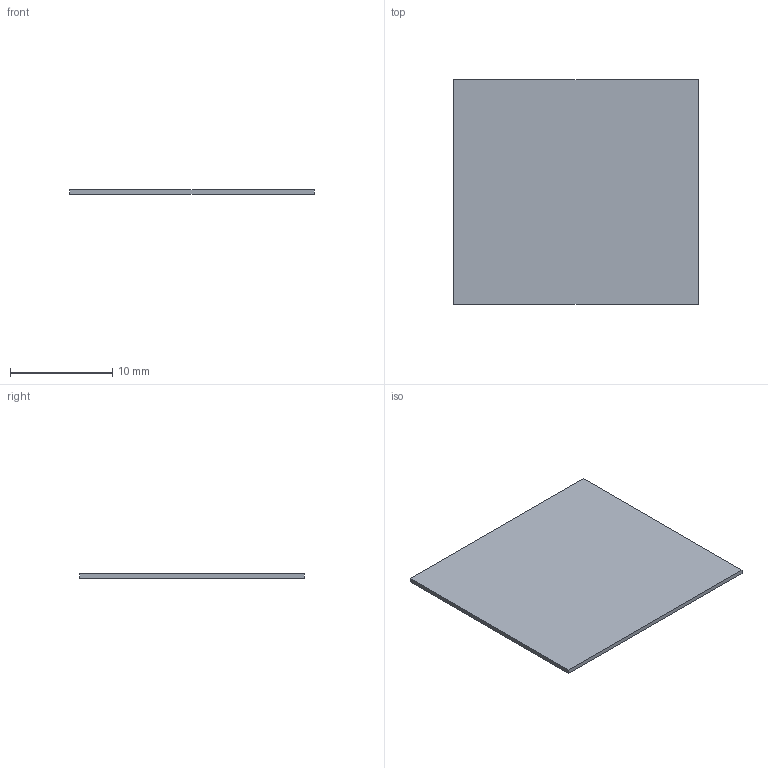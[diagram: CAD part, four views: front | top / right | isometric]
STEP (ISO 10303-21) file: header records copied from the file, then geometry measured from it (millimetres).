
FILE_DESCRIPTION(('Open CASCADE Model'),'2;1');
FILE_NAME('Open CASCADE Shape Model','2026-10-16T00:38:05',('Author'),( 'Open CASCADE'),'Open CASCADE STEP processor 7.5','Open CASCADE 7.5' ,'Unknown');
FILE_SCHEMA(('AUTOMOTIVE_DESIGN { 1 0 10303 214 1 1 1 1 }'));
Length unit declared in the file: millimetre
Products named in the file (3): PCB; Board; Open CASCADE STEP translator 7.5 2.1.1
Assembly tree (2 placements, depth 3):
  PCB
    Board
      Open CASCADE STEP translator 7.5 2.1.1
Bounding box: 24 x 22 x 0.41 mm (x, y, z)
Volume: 217.3 mm3; surface area: 1093.9 mm2
Topology: 1 solids, 1 shells, 6 faces, 12 edges, 8 vertices
Faces by surface type: plane 6
Entity records: 213 total; most frequent: DIRECTION 30, CARTESIAN_POINT 29, ORIENTED_EDGE 24, EDGE_CURVE 12, LINE 12, VECTOR 12, AXIS2_PLACEMENT_3D 9, VERTEX_POINT 8
